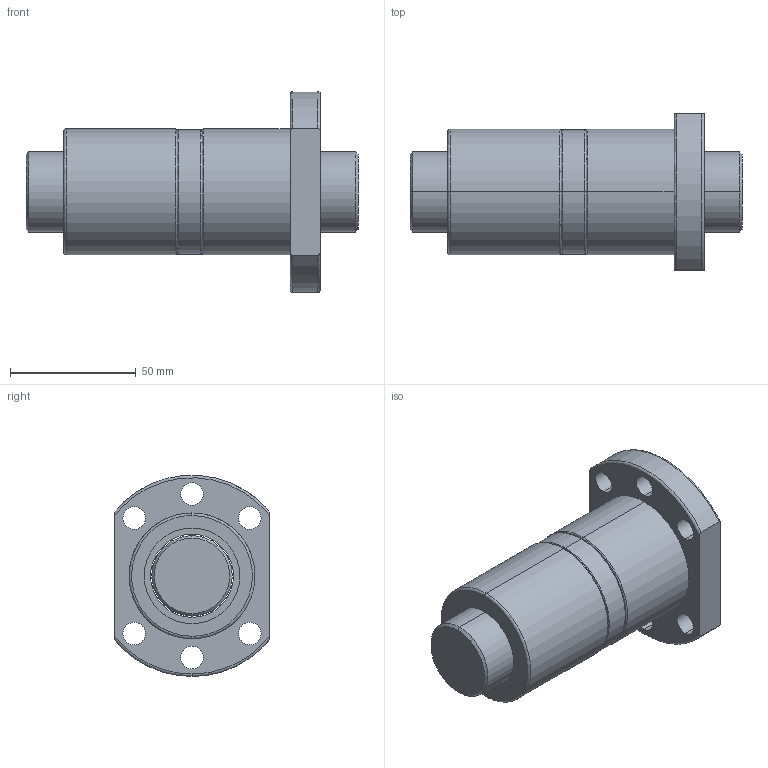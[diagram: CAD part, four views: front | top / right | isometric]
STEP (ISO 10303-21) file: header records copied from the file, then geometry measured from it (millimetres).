
FILE_DESCRIPTION (( 'STEP AP203' ), '1' );
FILE_NAME ('DFU03205.STEP', '2013-01-21T07:37:15', ( 'Halezer' ), ( '' ), 'SwSTEP 2.0', 'SolidWorks 2010', '' );
FILE_SCHEMA (( 'CONFIG_CONTROL_DESIGN' ));
Length unit declared in the file: millimetre
Products named in the file (1): DFU03205
Bounding box: 132 x 62 x 79.87 mm (x, y, z)
Volume: 243299 mm3; surface area: 58749.8 mm2
Topology: 6 solids, 6 shells, 78 faces, 173 edges, 110 vertices
Faces by surface type: cylinder 41, plane 17, bspline 16, cone 4
Entity records: 2642 total; most frequent: CARTESIAN_POINT 831, DIRECTION 373, ORIENTED_EDGE 346, EDGE_CURVE 173, AXIS2_PLACEMENT_3D 161, VERTEX_POINT 110, EDGE_LOOP 103, CIRCLE 98
